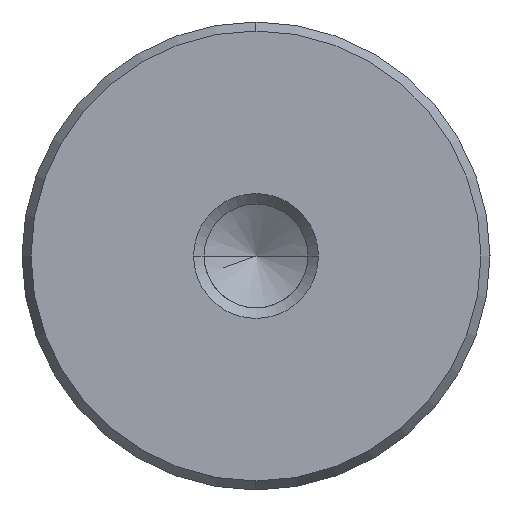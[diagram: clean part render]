
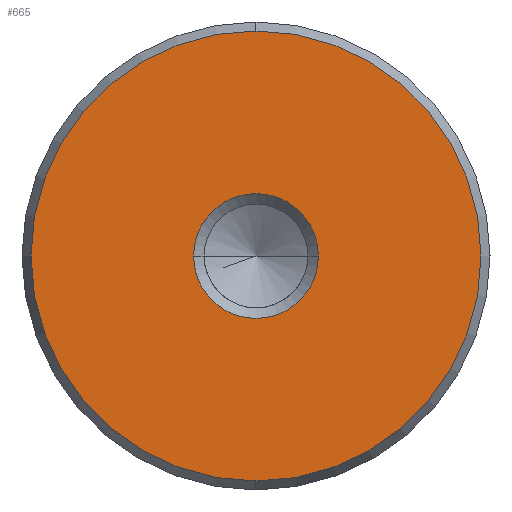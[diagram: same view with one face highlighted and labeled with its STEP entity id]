
A CAD part, left-side view. The second image highlights one B-rep face of the part: STEP entity #665.
In plain terms, the highlighted planar face has unit normal (-1, 0, 0).
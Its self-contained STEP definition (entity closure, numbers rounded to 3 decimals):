
#579=CARTESIAN_POINT('Vertex',(0.,0.,-14.423)) ;
#582=CARTESIAN_POINT('Axis2P3D Location',(0.,0.,0.)) ;
#586=CARTESIAN_POINT('Vertex',(0.,14.423,0.)) ;
#589=CARTESIAN_POINT('Axis2P3D Location',(0.,0.,0.)) ;
#593=CARTESIAN_POINT('Vertex',(0.,0.,14.423)) ;
#615=CARTESIAN_POINT('Axis2P3D Location',(0.,0.,0.)) ;
#619=CARTESIAN_POINT('Vertex',(0.,-14.423,0.)) ;
#622=CARTESIAN_POINT('Axis2P3D Location',(0.,0.,0.)) ;
#636=CARTESIAN_POINT('Axis2P3D Location',(0.,0.,0.)) ;
#647=CARTESIAN_POINT('Axis2P3D Location',(0.,0.,0.)) ;
#651=CARTESIAN_POINT('Vertex',(0.,4.,0.)) ;
#653=CARTESIAN_POINT('Vertex',(0.,-4.,0.)) ;
#656=CARTESIAN_POINT('Axis2P3D Location',(0.,0.,0.)) ;
#583=DIRECTION('Axis2P3D Direction',(1.,0.,-0.)) ;
#590=DIRECTION('Axis2P3D Direction',(1.,0.,-0.)) ;
#616=DIRECTION('Axis2P3D Direction',(1.,0.,-0.)) ;
#623=DIRECTION('Axis2P3D Direction',(1.,0.,-0.)) ;
#637=DIRECTION('Axis2P3D Direction',(1.,0.,-0.)) ;
#638=DIRECTION('Axis2P3D XDirection',(-0.,0.,-1.)) ;
#648=DIRECTION('Axis2P3D Direction',(1.,0.,-0.)) ;
#657=DIRECTION('Axis2P3D Direction',(1.,0.,-0.)) ;
#584=AXIS2_PLACEMENT_3D('Circle Axis2P3D',#582,#583,$) ;
#591=AXIS2_PLACEMENT_3D('Circle Axis2P3D',#589,#590,$) ;
#617=AXIS2_PLACEMENT_3D('Circle Axis2P3D',#615,#616,$) ;
#624=AXIS2_PLACEMENT_3D('Circle Axis2P3D',#622,#623,$) ;
#639=AXIS2_PLACEMENT_3D('Plane Axis2P3D',#636,#637,#638) ;
#649=AXIS2_PLACEMENT_3D('Circle Axis2P3D',#647,#648,$) ;
#658=AXIS2_PLACEMENT_3D('Circle Axis2P3D',#656,#657,$) ;
#642=ORIENTED_EDGE('',*,*,#588,.F.) ;
#643=ORIENTED_EDGE('',*,*,#626,.F.) ;
#644=ORIENTED_EDGE('',*,*,#621,.F.) ;
#645=ORIENTED_EDGE('',*,*,#595,.F.) ;
#662=ORIENTED_EDGE('',*,*,#655,.T.) ;
#663=ORIENTED_EDGE('',*,*,#660,.T.) ;
#664=FACE_BOUND('',#661,.T.) ;
#665=ADVANCED_FACE('720-30x450',(#646,#664),#640,.F.) ;
#585=CIRCLE('generated circle',#584,14.423) ;
#592=CIRCLE('generated circle',#591,14.423) ;
#618=CIRCLE('generated circle',#617,14.423) ;
#625=CIRCLE('generated circle',#624,14.423) ;
#650=CIRCLE('generated circle',#649,4.) ;
#659=CIRCLE('generated circle',#658,4.) ;
#588=EDGE_CURVE('',#580,#587,#585,.T.) ;
#595=EDGE_CURVE('',#587,#594,#592,.T.) ;
#621=EDGE_CURVE('',#594,#620,#618,.T.) ;
#626=EDGE_CURVE('',#620,#580,#625,.T.) ;
#655=EDGE_CURVE('',#652,#654,#650,.T.) ;
#660=EDGE_CURVE('',#654,#652,#659,.T.) ;
#641=EDGE_LOOP('',(#642,#643,#644,#645)) ;
#661=EDGE_LOOP('',(#662,#663)) ;
#646=FACE_OUTER_BOUND('',#641,.T.) ;
#640=PLANE('Plane',#639) ;
#580=VERTEX_POINT('',#579) ;
#587=VERTEX_POINT('',#586) ;
#594=VERTEX_POINT('',#593) ;
#620=VERTEX_POINT('',#619) ;
#652=VERTEX_POINT('',#651) ;
#654=VERTEX_POINT('',#653) ;
